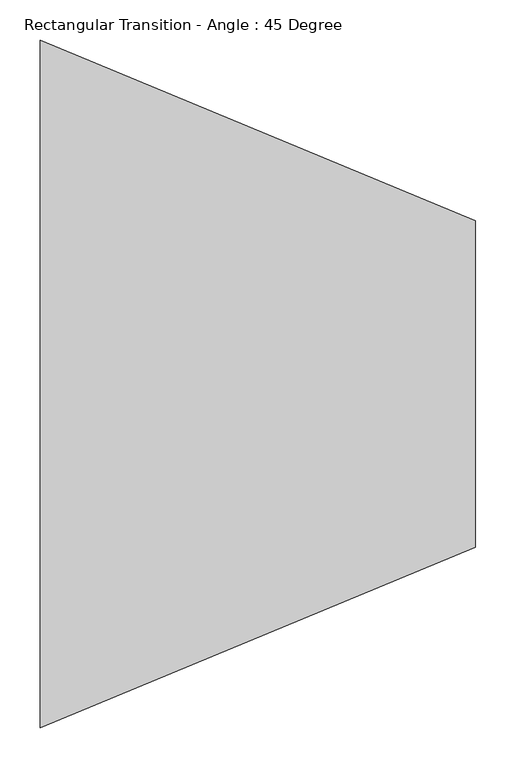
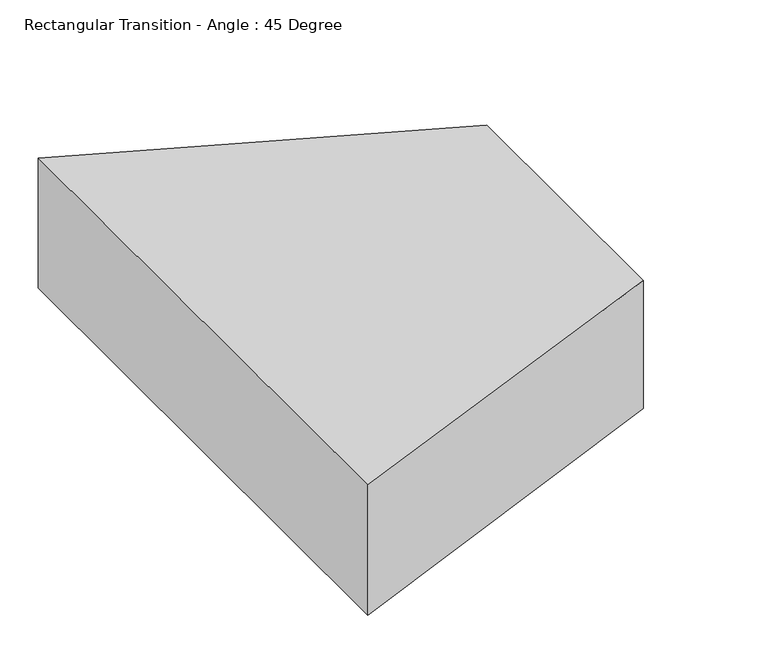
"""IFC4 building model written with IfcOpenShell, lengths in millimetres: duct fitting geometry, Rectangular Transition - Angle : 45 Degree."""

from ifc_helpers import new_model, si_unit, origin, place, context, project, spatial, faceted_brep, source, transform, mapped, element, save


def rectangular_transition_angle_45_degree_497df859(model_context):
    return source(origin(), model_context, "Body", "Brep", [
        faceted_brep([(542.3078103, -203.2, 101.6), (542.3078103, -203.2, -101.6), (542.3078103, 203.2, -101.6), (542.3078103, 203.2, 101.6), (0.0, -427.83125, 103.1875), (0.0, 427.83125, 103.1875), (0.0, 427.83125, -103.1875), (0.0, -427.83125, -103.1875)], [[[0, 1, 2, 3]], [[4, 5, 6, 7]], [[4, 7, 1, 0]], [[7, 6, 2, 1]], [[6, 5, 3, 2]], [[5, 4, 0, 3]]]),
    ])


if __name__ == "__main__":
    model = new_model("IFC4")
    model_context = context("Model", 3, world=origin())
    ifc_project = project(units=[si_unit("LENGTHUNIT", "METRE", prefix="MILLI")], contexts=[model_context])
    site = spatial("IfcSite", under=ifc_project)
    building = spatial("IfcBuilding", under=site)
    placement = place(None, origin())
    rectangular_transition_angle_45_degree_shape = rectangular_transition_angle_45_degree_497df859(model_context)
    element("IfcDuctFitting", 1, ObjectType="Rectangular Transition - Angle : 45 Degree", at=placement, inside=building, context=model_context, shape_type="MappedRepresentation", body=[
        mapped(rectangular_transition_angle_45_degree_shape, transform((0.0, 0.0, 0.0), x_axis=(1.0, 0.0, 0.0), y_axis=(0.0, 1.0, 0.0), z_axis=(0.0, 0.0, 1.0))),
    ])
    save(model, "model.ifc")
